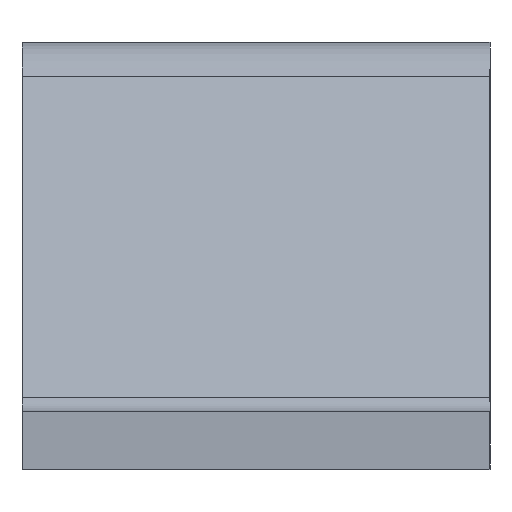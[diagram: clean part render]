
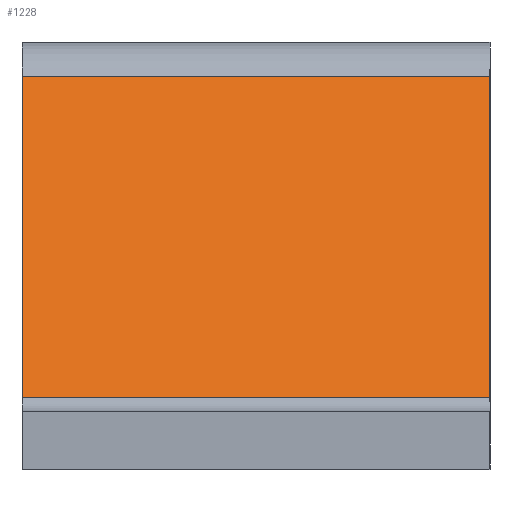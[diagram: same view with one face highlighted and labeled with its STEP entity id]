
A CAD part, front view. The second image highlights one B-rep face of the part: STEP entity #1228.
In plain terms, the highlighted planar face has unit normal (0, -0.906, 0.422).
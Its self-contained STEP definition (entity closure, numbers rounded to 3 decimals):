
#40 = ORIENTED_EDGE ( 'NONE', *, *, #120, .T. ) ;
#59 = VECTOR ( 'NONE', #1105, 1000. ) ;
#77 = EDGE_CURVE ( 'NONE', #1265, #982, #927, .T. ) ;
#78 = CARTESIAN_POINT ( 'NONE',  ( 95.7, -232.882, -185.489 ) ) ;
#84 = AXIS2_PLACEMENT_3D ( 'NONE', #1294, #641, #1411 ) ;
#120 = EDGE_CURVE ( 'NONE', #458, #982, #561, .T. ) ;
#247 = DIRECTION ( 'NONE',  ( -1., 0., 0. ) ) ;
#288 = EDGE_CURVE ( 'NONE', #658, #458, #1548, .T. ) ;
#379 = CARTESIAN_POINT ( 'NONE',  ( 95.7, -232.882, -185.489 ) ) ;
#396 = PLANE ( 'NONE',  #84 ) ;
#414 = CARTESIAN_POINT ( 'NONE',  ( 135.7, -232.882, -185.489 ) ) ;
#458 = VERTEX_POINT ( 'NONE', #414 ) ;
#561 = LINE ( 'NONE', #379, #1565 ) ;
#582 = CARTESIAN_POINT ( 'NONE',  ( 135.7, -246.206, -214.1 ) ) ;
#614 = VECTOR ( 'NONE', #1154, 1000. ) ;
#629 = CARTESIAN_POINT ( 'NONE',  ( 95.7, -246.206, -214.1 ) ) ;
#641 = DIRECTION ( 'NONE',  ( 0., 0.907, -0.422 ) ) ;
#658 = VERTEX_POINT ( 'NONE', #1602 ) ;
#802 = ORIENTED_EDGE ( 'NONE', *, *, #880, .T. ) ;
#808 = ORIENTED_EDGE ( 'NONE', *, *, #77, .F. ) ;
#880 = EDGE_CURVE ( 'NONE', #1265, #658, #1075, .T. ) ;
#927 = LINE ( 'NONE', #629, #614 ) ;
#982 = VERTEX_POINT ( 'NONE', #78 ) ;
#1012 = EDGE_LOOP ( 'NONE', ( #1356, #40, #808, #802 ) ) ;
#1075 = LINE ( 'NONE', #1474, #59 ) ;
#1105 = DIRECTION ( 'NONE',  ( 1., 0., 0. ) ) ;
#1151 = CARTESIAN_POINT ( 'NONE',  ( 95.7, -245.668, -212.944 ) ) ;
#1154 = DIRECTION ( 'NONE',  ( 0., 0.422, 0.907 ) ) ;
#1179 = FACE_OUTER_BOUND ( 'NONE', #1012, .T. ) ;
#1184 = VECTOR ( 'NONE', #1226, 1000. ) ;
#1226 = DIRECTION ( 'NONE',  ( 0., 0.422, 0.907 ) ) ;
#1228 = ADVANCED_FACE ( 'NONE', ( #1179 ), #396, .F. ) ;
#1265 = VERTEX_POINT ( 'NONE', #1151 ) ;
#1294 = CARTESIAN_POINT ( 'NONE',  ( 95.7, -246.206, -214.1 ) ) ;
#1356 = ORIENTED_EDGE ( 'NONE', *, *, #288, .T. ) ;
#1411 = DIRECTION ( 'NONE',  ( 0., 0.422, 0.907 ) ) ;
#1474 = CARTESIAN_POINT ( 'NONE',  ( 135.7, -245.668, -212.944 ) ) ;
#1548 = LINE ( 'NONE', #582, #1184 ) ;
#1565 = VECTOR ( 'NONE', #247, 1000. ) ;
#1602 = CARTESIAN_POINT ( 'NONE',  ( 135.7, -245.668, -212.944 ) ) ;
